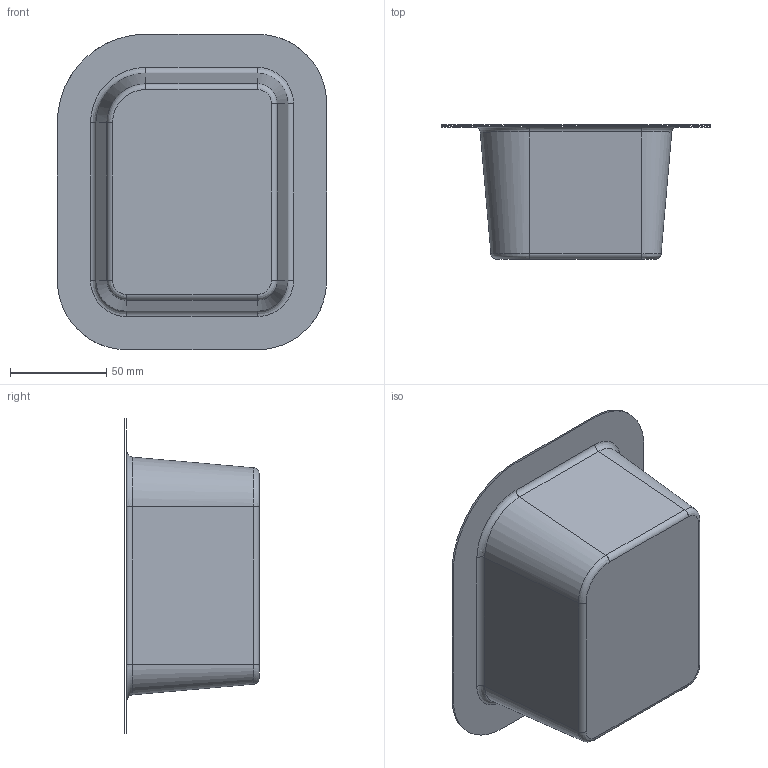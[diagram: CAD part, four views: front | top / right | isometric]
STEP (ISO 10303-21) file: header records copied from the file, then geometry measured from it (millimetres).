
FILE_DESCRIPTION(('CATIA V5 STEP Exchange'),'2;1');
FILE_NAME('C:\_Andres\UNIVERSIDAD\IQS\ASIGNATURAS\DAO\Controles\1617\c3\2inicio\Esteba_Torres_control3_v12.stp','2017-02-17T14:22:05+00:00',('none'),('none'),'CATIA Version 5-6 Release 2014 SP1 HF18','CATIA V5 STEP AP203','none');
FILE_SCHEMA(('CONFIG_CONTROL_DESIGN'));
Length unit declared in the file: millimetre
Products named in the file (1): Esteba_Torres_control3_v12
Bounding box: 140.03 x 69.74 x 164.03 mm (x, y, z)
Surface area: 67558.2 mm2 (no closed solid volume)
Topology: 0 solids, 2 shells, 27 faces, 80 edges, 57 vertices
Faces by surface type: bspline 16, cylinder 8, plane 3
Entity records: 1907 total; most frequent: CARTESIAN_POINT 1311, ORIENTED_EDGE 128, EDGE_CURVE 72, B_SPLINE_CURVE_WITH_KNOTS 54, DIRECTION 50, VERTEX_POINT 48, EDGE_LOOP 28, ADVANCED_FACE 27
